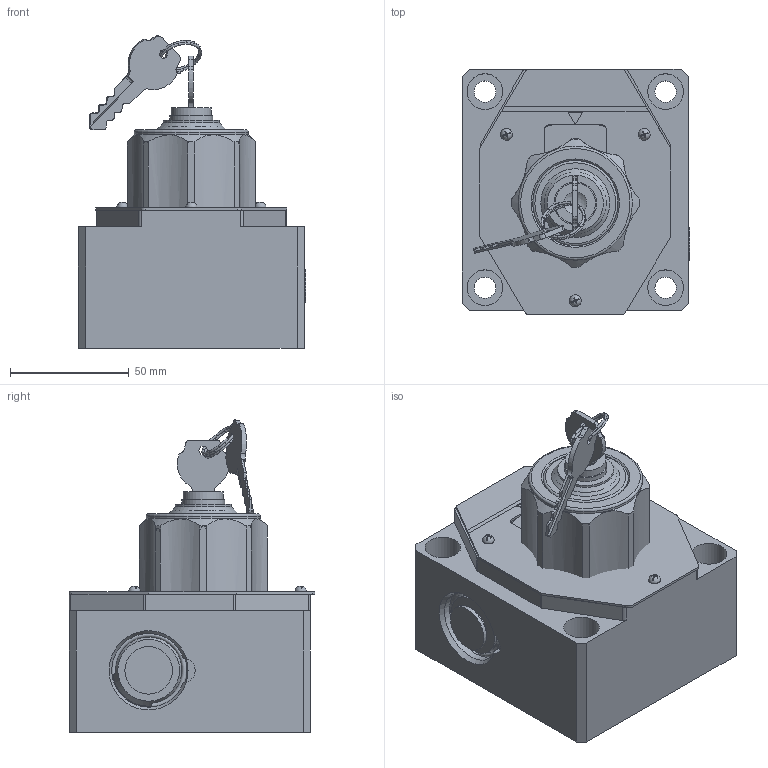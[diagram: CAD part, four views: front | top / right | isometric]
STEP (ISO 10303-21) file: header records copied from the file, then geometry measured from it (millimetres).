
FILE_DESCRIPTION(/* description */ (''),/* implementation_level */ '2;1');
FILE_NAME(/* name */ '2FRM10-2XJ调速阀（不带压力补偿器行程限制器）.prt.stp',/* time_stamp */ '2022-03-30T19:56:00+08:00',/* author */ (''),/* organization */ (''),/* preprocessor_version */ 'ST-DEVELOPER v16.7',/* originating_system */ 'SIEMENS PLM Software NX 12.0',/* authorisation */ '');
FILE_SCHEMA (('AUTOMOTIVE_DESIGN { 1 0 10303 214 3 1 1 1 }'));
Products named in the file (1): 2FRM10-2XJ调速阀（不带压力补偿器行程限制器）
Bounding box: 95.6 x 103.5 x 131.4 mm (x, y, z)
Volume: 590651.8 mm3; surface area: 118846.4 mm2
Topology: 25 solids, 35 shells, 991 faces, 2616 edges, 1723 vertices
Faces by surface type: cylinder 380, plane 326, cone 134, extrusion 84, torus 46, bspline 15, sphere 6
Full cylindrical faces by diameter (mm): 2.55 x3, 3 x3, 6 x1, 7 x1, 8.2 x1, 9 x4, 11 x1, 12 x3, 12.8 x1, 14 x1, 15 x4, 15.5 x1, 16 x1, 17 x3, 18 x7, 20 x1, 21.2 x1, 22 x2, 23.6 x1, 25.2 x2, 25.9 x2, 26 x1, 29 x1, 30.2 x1, 30.5 x1, 32.5 x1, 33 x1, 34.1 x1, 34.8 x1, 36 x2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
Entity records: 47755 total; most frequent: CARTESIAN_POINT 23893, ORIENTED_EDGE 4864, DIRECTION 4553, EDGE_CURVE 2432, AXIS2_PLACEMENT_3D 1744, VERTEX_POINT 1685, EDGE_LOOP 1194, VECTOR 1065
